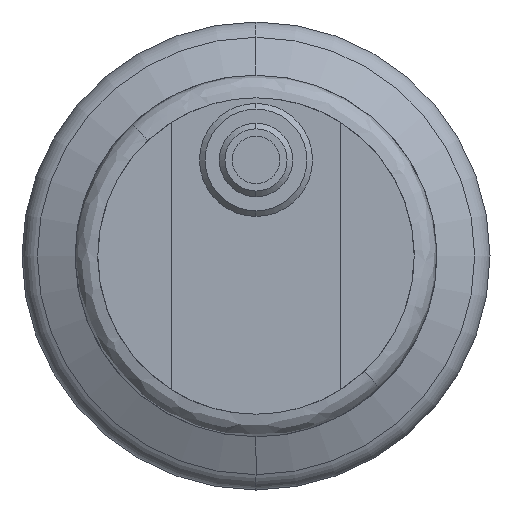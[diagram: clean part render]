
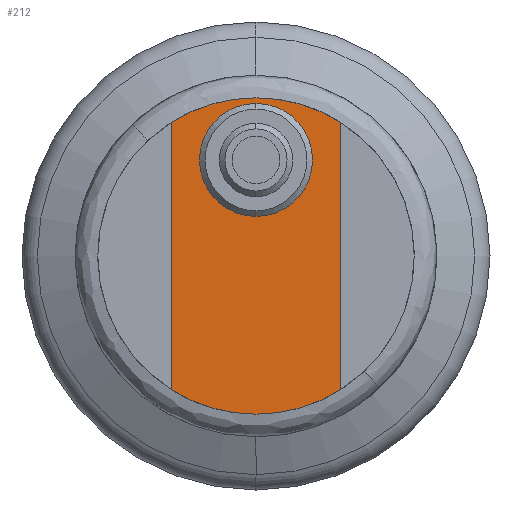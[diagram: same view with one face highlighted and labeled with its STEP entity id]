
A CAD part, left-side view. The second image highlights one B-rep face of the part: STEP entity #212.
In plain terms, the highlighted planar face has unit normal (-1, 0, 0).
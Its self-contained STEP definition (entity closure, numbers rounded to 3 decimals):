
#212=ADVANCED_FACE('',(#424,#425),#426,.T.);
#424=FACE_OUTER_BOUND('',#816,.T.);
#425=FACE_BOUND('',#817,.T.);
#426=PLANE('',#818);
#816=EDGE_LOOP('',(#1542,#1543,#1544,#1545,#1546,#1547));
#817=EDGE_LOOP('',(#1548,#1549));
#818=AXIS2_PLACEMENT_3D('',#1550,#1551,#1552);
#1542=ORIENTED_EDGE('',*,*,#1941,.T.);
#1543=ORIENTED_EDGE('',*,*,#1937,.T.);
#1544=ORIENTED_EDGE('',*,*,#1764,.T.);
#1545=ORIENTED_EDGE('',*,*,#1930,.T.);
#1546=ORIENTED_EDGE('',*,*,#1769,.T.);
#1547=ORIENTED_EDGE('',*,*,#1940,.T.);
#1548=ORIENTED_EDGE('',*,*,#1929,.T.);
#1549=ORIENTED_EDGE('',*,*,#1781,.T.);
#1550=CARTESIAN_POINT('',(0.0,7.0,0.0));
#1551=DIRECTION('',(-1.0,0.0,0.0));
#1552=DIRECTION('',(0.0,0.0,1.0));
#1764=EDGE_CURVE('',#2048,#2049,#2050,.T.);
#1769=EDGE_CURVE('',#2059,#2057,#2060,.T.);
#1781=EDGE_CURVE('',#2082,#2083,#2084,.T.);
#1929=EDGE_CURVE('',#2083,#2082,#2314,.T.);
#1930=EDGE_CURVE('',#2049,#2059,#2315,.T.);
#1937=EDGE_CURVE('',#2324,#2048,#2325,.T.);
#1940=EDGE_CURVE('',#2057,#2327,#2329,.T.);
#1941=EDGE_CURVE('',#2327,#2324,#2330,.T.);
#2048=VERTEX_POINT('',#2465);
#2049=VERTEX_POINT('',#2466);
#2050=CIRCLE('',#2467,14.0);
#2057=VERTEX_POINT('',#2475);
#2059=VERTEX_POINT('',#2478);
#2060=CIRCLE('',#2479,14.0);
#2082=VERTEX_POINT('',#2507);
#2083=VERTEX_POINT('',#2508);
#2084=CIRCLE('',#2509,2.65);
#2314=CIRCLE('',#3034,2.65);
#2315=LINE('',#3035,#3036);
#2324=VERTEX_POINT('',#3046);
#2325=CIRCLE('',#3047,14.0);
#2327=VERTEX_POINT('',#3050);
#2329=CIRCLE('',#3053,14.0);
#2330=LINE('',#3054,#3055);
#2465=CARTESIAN_POINT('',(0.0,0.,14.0));
#2466=CARTESIAN_POINT('',(0.0,7.5,11.822));
#2467=AXIS2_PLACEMENT_3D('',#3256,#3257,#3258);
#2475=CARTESIAN_POINT('',(0.0,0.0,-14.0));
#2478=CARTESIAN_POINT('',(0.0,7.5,-11.822));
#2479=AXIS2_PLACEMENT_3D('',#3267,#3268,#3269);
#2507=CARTESIAN_POINT('',(0.,2.65,8.5));
#2508=CARTESIAN_POINT('',(0.,-2.65,8.5));
#2509=AXIS2_PLACEMENT_3D('',#3291,#3292,#3293);
#3034=AXIS2_PLACEMENT_3D('',#3602,#3603,#3604);
#3035=CARTESIAN_POINT('',(0.0,7.5,0.0));
#3036=VECTOR('',#3605,1000.0);
#3046=CARTESIAN_POINT('',(0.0,-7.5,11.822));
#3047=AXIS2_PLACEMENT_3D('',#3622,#3623,#3624);
#3050=CARTESIAN_POINT('',(0.0,-7.5,-11.822));
#3053=AXIS2_PLACEMENT_3D('',#3627,#3628,#3629);
#3054=CARTESIAN_POINT('',(0.0,-7.5,0.0));
#3055=VECTOR('',#3630,1000.0);
#3256=CARTESIAN_POINT('',(0.0,0.0,0.0));
#3257=DIRECTION('',(-1.0,0.0,0.0));
#3258=DIRECTION('',(0.0,0.0,-1.0));
#3267=CARTESIAN_POINT('',(0.0,0.0,0.0));
#3268=DIRECTION('',(-1.0,0.0,0.0));
#3269=DIRECTION('',(0.0,0.0,-1.0));
#3291=CARTESIAN_POINT('',(0.0,0.,8.5));
#3292=DIRECTION('',(1.0,0.,0.));
#3293=DIRECTION('',(0.,-1.0,0.));
#3602=CARTESIAN_POINT('',(0.0,0.,8.5));
#3603=DIRECTION('',(1.0,0.,0.));
#3604=DIRECTION('',(0.,-1.0,0.));
#3605=DIRECTION('',(0.0,0.0,-1.0));
#3622=CARTESIAN_POINT('',(0.0,0.0,0.0));
#3623=DIRECTION('',(-1.0,0.0,0.0));
#3624=DIRECTION('',(0.0,0.,-1.0));
#3627=CARTESIAN_POINT('',(0.0,0.0,0.0));
#3628=DIRECTION('',(-1.0,0.0,0.0));
#3629=DIRECTION('',(0.0,0.0,-1.0));
#3630=DIRECTION('',(0.0,0.0,1.0));
